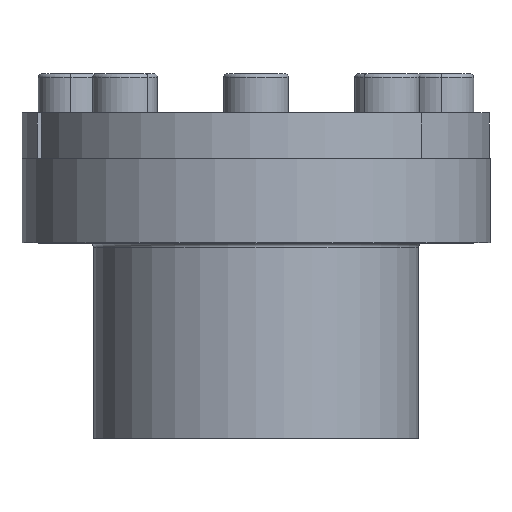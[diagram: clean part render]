
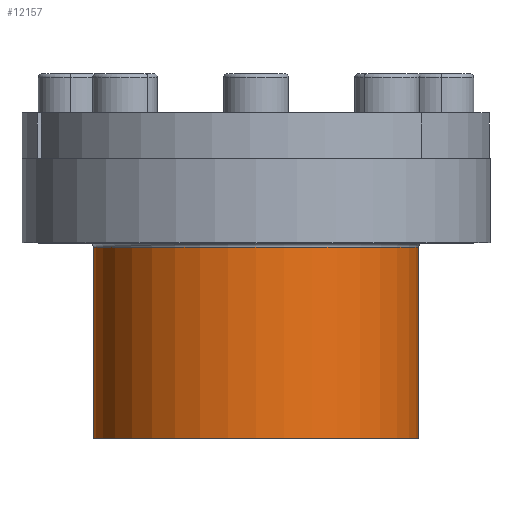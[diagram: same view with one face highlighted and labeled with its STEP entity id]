
A CAD part, front view. The second image highlights one B-rep face of the part: STEP entity #12157.
In plain terms, the highlighted cylindrical face has radius 25 mm (diameter 50 mm), a partial arc.
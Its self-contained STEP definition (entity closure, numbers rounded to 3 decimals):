
#570 = CARTESIAN_POINT ( 'NONE',  ( -25., 0., -38. ) ) ;
#842 = DIRECTION ( 'NONE',  ( 0., 0., -1. ) ) ;
#890 = DIRECTION ( 'NONE',  ( -1., 0., 0. ) ) ;
#1062 = CIRCLE ( 'NONE', #9381, 25. ) ;
#1105 = VECTOR ( 'NONE', #12426, 1000. ) ;
#1636 = EDGE_CURVE ( 'NONE', #10016, #10193, #6107, .T. ) ;
#1669 = VECTOR ( 'NONE', #842, 1000. ) ;
#1874 = VERTEX_POINT ( 'NONE', #6880 ) ;
#1909 = AXIS2_PLACEMENT_3D ( 'NONE', #3469, #6447, #10479 ) ;
#2028 = AXIS2_PLACEMENT_3D ( 'NONE', #9740, #3762, #10770 ) ;
#2835 = ORIENTED_EDGE ( 'NONE', *, *, #1636, .F. ) ;
#3029 = ORIENTED_EDGE ( 'NONE', *, *, #6426, .T. ) ;
#3258 = CYLINDRICAL_SURFACE ( 'NONE', #1909, 25. ) ;
#3469 = CARTESIAN_POINT ( 'NONE',  ( 0., 0., -8. ) ) ;
#3762 = DIRECTION ( 'NONE',  ( 0., 0., -1. ) ) ;
#3833 = EDGE_CURVE ( 'NONE', #10016, #1874, #7600, .T. ) ;
#3917 = EDGE_CURVE ( 'NONE', #10193, #4341, #1062, .T. ) ;
#4341 = VERTEX_POINT ( 'NONE', #570 ) ;
#5003 = ORIENTED_EDGE ( 'NONE', *, *, #3917, .F. ) ;
#5032 = EDGE_LOOP ( 'NONE', ( #2835, #8374, #3029, #5003 ) ) ;
#5875 = CARTESIAN_POINT ( 'NONE',  ( -25., 0., -8. ) ) ;
#6107 = LINE ( 'NONE', #11438, #1105 ) ;
#6394 = CARTESIAN_POINT ( 'NONE',  ( 25., 0., -8.6 ) ) ;
#6426 = EDGE_CURVE ( 'NONE', #1874, #4341, #6674, .T. ) ;
#6447 = DIRECTION ( 'NONE',  ( 0., 0., -1. ) ) ;
#6674 = LINE ( 'NONE', #5875, #1669 ) ;
#6864 = FACE_OUTER_BOUND ( 'NONE', #5032, .T. ) ;
#6870 = DIRECTION ( 'NONE',  ( 0., 0., -1. ) ) ;
#6880 = CARTESIAN_POINT ( 'NONE',  ( -25., 0., -8.6 ) ) ;
#7600 = CIRCLE ( 'NONE', #2028, 25. ) ;
#8374 = ORIENTED_EDGE ( 'NONE', *, *, #3833, .T. ) ;
#9381 = AXIS2_PLACEMENT_3D ( 'NONE', #12859, #6870, #890 ) ;
#9740 = CARTESIAN_POINT ( 'NONE',  ( 0., 0., -8.6 ) ) ;
#10016 = VERTEX_POINT ( 'NONE', #6394 ) ;
#10193 = VERTEX_POINT ( 'NONE', #11769 ) ;
#10479 = DIRECTION ( 'NONE',  ( -1., 0., 0. ) ) ;
#10770 = DIRECTION ( 'NONE',  ( -1., 0., 0. ) ) ;
#11438 = CARTESIAN_POINT ( 'NONE',  ( 25., 0., -8. ) ) ;
#11769 = CARTESIAN_POINT ( 'NONE',  ( 25., 0., -38. ) ) ;
#12157 = ADVANCED_FACE ( 'NONE', ( #6864 ), #3258, .T. ) ;
#12426 = DIRECTION ( 'NONE',  ( 0., 0., -1. ) ) ;
#12859 = CARTESIAN_POINT ( 'NONE',  ( 0., 0., -38. ) ) ;
